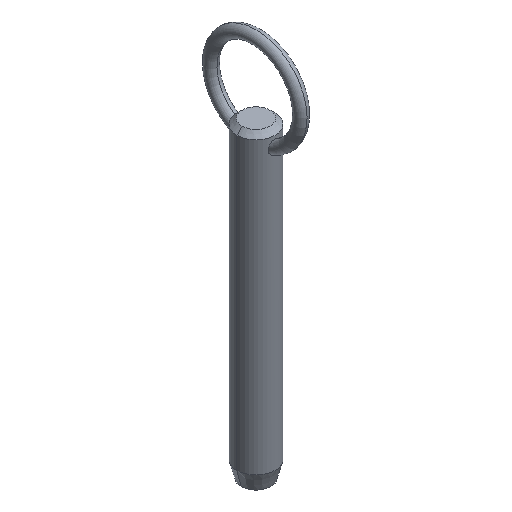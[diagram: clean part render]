
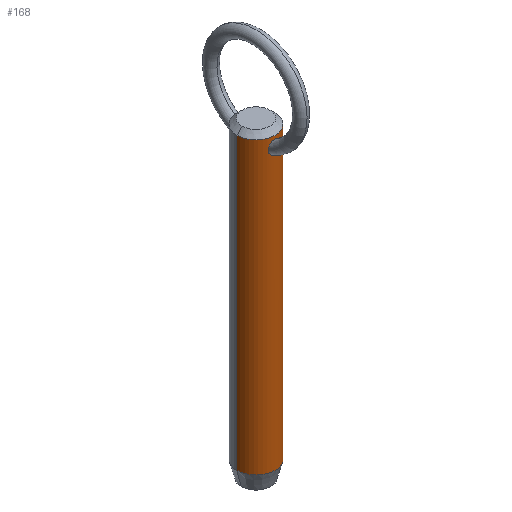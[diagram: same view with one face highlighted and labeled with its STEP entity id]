
A CAD part, isometric view. The second image highlights one B-rep face of the part: STEP entity #168.
In plain terms, the highlighted cylindrical face has radius 4.76 mm (diameter 9.52 mm), a partial arc.
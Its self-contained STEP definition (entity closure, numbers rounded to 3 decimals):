
#1 = CARTESIAN_POINT ( 'NONE',  ( 1.344, -4.567, 60.139 ) ) ;
#7 = EDGE_CURVE ( 'NONE', #199, #258, #10, .T. ) ;
#10 = LINE ( 'NONE', #16, #47 ) ;
#15 = AXIS2_PLACEMENT_3D ( 'NONE', #357, #36, #126 ) ;
#16 = CARTESIAN_POINT ( 'NONE',  ( 4.76, 0., 58.4 ) ) ;
#21 = FACE_OUTER_BOUND ( 'NONE', #275, .T. ) ;
#30 = CARTESIAN_POINT ( 'NONE',  ( 0., -4.76, 62.648 ) ) ;
#36 = DIRECTION ( 'NONE',  ( 0., 0., 1. ) ) ;
#37 = CARTESIAN_POINT ( 'NONE',  ( 0.506, -4.734, 62.537 ) ) ;
#40 = CARTESIAN_POINT ( 'NONE',  ( -1.039, -4.646, 59.726 ) ) ;
#43 = CARTESIAN_POINT ( 'NONE',  ( -0.103, -4.76, 62.648 ) ) ;
#46 = CARTESIAN_POINT ( 'NONE',  ( 1.24, -4.596, 59.96 ) ) ;
#47 = VECTOR ( 'NONE', #422, 1000. ) ;
#48 = CARTESIAN_POINT ( 'NONE',  ( 0.411, -4.743, 59.377 ) ) ;
#52 = ORIENTED_EDGE ( 'NONE', *, *, #7, .F. ) ;
#63 = B_SPLINE_CURVE_WITH_KNOTS ( 'NONE', 3,
 ( #239, #520, #242, #277, #278, #205, #40, #410, #132, #166, #165, #322, #330, #169, #86, #133, #368, #207, #367, #525, #43, #445 ),
 .UNSPECIFIED., .F., .F.,
 ( 4, 2, 2, 2, 2, 2, 2, 2, 2, 2, 4 ),
 ( 0.009, 0.01, 0.01, 0.011, 0.011, 0.012, 0.012, 0.013, 0.014, 0.014, 0.014 ),
 .UNSPECIFIED. ) ;
#80 = CARTESIAN_POINT ( 'NONE',  ( 0., 0., 63.45 ) ) ;
#83 = CARTESIAN_POINT ( 'NONE',  ( 0.687, -4.711, 62.435 ) ) ;
#86 = CARTESIAN_POINT ( 'NONE',  ( -1.19, -4.611, 61.924 ) ) ;
#88 = CARTESIAN_POINT ( 'NONE',  ( 1.404, -4.548, 61.453 ) ) ;
#90 = CARTESIAN_POINT ( 'NONE',  ( 1.293, -4.582, 61.742 ) ) ;
#91 = CARTESIAN_POINT ( 'NONE',  ( 1.45, -4.534, 60.428 ) ) ;
#108 = CARTESIAN_POINT ( 'NONE',  ( 0., 0., 58.4 ) ) ;
#116 = CARTESIAN_POINT ( 'NONE',  ( 0., -4.76, 59.326 ) ) ;
#117 = DIRECTION ( 'NONE',  ( 0., 0., -1. ) ) ;
#121 = CARTESIAN_POINT ( 'NONE',  ( 0.104, -4.76, 62.648 ) ) ;
#122 = FACE_BOUND ( 'NONE', #194, .T. ) ;
#126 = DIRECTION ( 'NONE',  ( -1., 0., 0. ) ) ;
#127 = CARTESIAN_POINT ( 'NONE',  ( 0.925, -4.67, 62.239 ) ) ;
#128 = CARTESIAN_POINT ( 'NONE',  ( 0.209, -4.756, 62.634 ) ) ;
#132 = CARTESIAN_POINT ( 'NONE',  ( -1.353, -4.564, 60.135 ) ) ;
#133 = CARTESIAN_POINT ( 'NONE',  ( -0.932, -4.67, 62.245 ) ) ;
#134 = CARTESIAN_POINT ( 'NONE',  ( 1.385, -4.554, 60.232 ) ) ;
#141 = ORIENTED_EDGE ( 'NONE', *, *, #307, .T. ) ;
#156 = DIRECTION ( 'NONE',  ( 0., 0., -1. ) ) ;
#157 = EDGE_CURVE ( 'NONE', #421, #455, #416, .T. ) ;
#165 = CARTESIAN_POINT ( 'NONE',  ( -1.508, -4.515, 60.737 ) ) ;
#166 = CARTESIAN_POINT ( 'NONE',  ( -1.483, -4.524, 60.526 ) ) ;
#168 = ADVANCED_FACE ( 'NONE', ( #21, #122 ), #323, .T. ) ;
#169 = CARTESIAN_POINT ( 'NONE',  ( -1.292, -4.582, 61.745 ) ) ;
#194 = EDGE_LOOP ( 'NONE', ( #313, #229 ) ) ;
#196 = CARTESIAN_POINT ( 'NONE',  ( -4.76, 0., 63.45 ) ) ;
#199 = VERTEX_POINT ( 'NONE', #391 ) ;
#202 = CARTESIAN_POINT ( 'NONE',  ( 0.797, -4.697, 59.529 ) ) ;
#203 = VERTEX_POINT ( 'NONE', #30 ) ;
#205 = CARTESIAN_POINT ( 'NONE',  ( -0.961, -4.663, 59.657 ) ) ;
#207 = CARTESIAN_POINT ( 'NONE',  ( -0.504, -4.734, 62.538 ) ) ;
#208 = AXIS2_PLACEMENT_3D ( 'NONE', #80, #237, #400 ) ;
#216 = CIRCLE ( 'NONE', #208, 4.76 ) ;
#229 = ORIENTED_EDGE ( 'NONE', *, *, #442, .T. ) ;
#230 = ORIENTED_EDGE ( 'NONE', *, *, #402, .T. ) ;
#237 = DIRECTION ( 'NONE',  ( 0., 0., -1. ) ) ;
#239 = CARTESIAN_POINT ( 'NONE',  ( 0., -4.76, 59.326 ) ) ;
#241 = CARTESIAN_POINT ( 'NONE',  ( 0.105, -4.76, 59.326 ) ) ;
#242 = CARTESIAN_POINT ( 'NONE',  ( -0.416, -4.746, 59.367 ) ) ;
#245 = CARTESIAN_POINT ( 'NONE',  ( 1.478, -4.525, 61.152 ) ) ;
#258 = VERTEX_POINT ( 'NONE', #393 ) ;
#265 = VERTEX_POINT ( 'NONE', #116 ) ;
#275 = EDGE_LOOP ( 'NONE', ( #52, #141, #417, #230 ) ) ;
#276 = CARTESIAN_POINT ( 'NONE',  ( 0., -4.76, 62.648 ) ) ;
#277 = CARTESIAN_POINT ( 'NONE',  ( -0.703, -4.709, 59.489 ) ) ;
#278 = CARTESIAN_POINT ( 'NONE',  ( -0.793, -4.694, 59.539 ) ) ;
#281 = CARTESIAN_POINT ( 'NONE',  ( 1.492, -4.52, 61.048 ) ) ;
#286 = CARTESIAN_POINT ( 'NONE',  ( 0.97, -4.662, 59.65 ) ) ;
#307 = EDGE_CURVE ( 'NONE', #199, #421, #216, .T. ) ;
#313 = ORIENTED_EDGE ( 'NONE', *, *, #429, .T. ) ;
#320 = CARTESIAN_POINT ( 'NONE',  ( 0.409, -4.743, 62.578 ) ) ;
#322 = CARTESIAN_POINT ( 'NONE',  ( -1.487, -4.522, 61.153 ) ) ;
#323 = CYLINDRICAL_SURFACE ( 'NONE', #471, 4.76 ) ;
#328 = CARTESIAN_POINT ( 'NONE',  ( 0., -4.76, 59.326 ) ) ;
#330 = CARTESIAN_POINT ( 'NONE',  ( -1.441, -4.537, 61.357 ) ) ;
#357 = CARTESIAN_POINT ( 'NONE',  ( 0., 0., -8.7 ) ) ;
#362 = CARTESIAN_POINT ( 'NONE',  ( 0.77, -4.698, 62.375 ) ) ;
#367 = CARTESIAN_POINT ( 'NONE',  ( -0.409, -4.743, 62.578 ) ) ;
#368 = CARTESIAN_POINT ( 'NONE',  ( -0.777, -4.7, 62.385 ) ) ;
#372 = CARTESIAN_POINT ( 'NONE',  ( 0.512, -4.733, 59.408 ) ) ;
#373 = CARTESIAN_POINT ( 'NONE',  ( 1.503, -4.517, 60.84 ) ) ;
#391 = CARTESIAN_POINT ( 'NONE',  ( 4.76, 0., 63.45 ) ) ;
#393 = CARTESIAN_POINT ( 'NONE',  ( 4.76, 0., -8.7 ) ) ;
#400 = DIRECTION ( 'NONE',  ( 1., 0., 0. ) ) ;
#402 = EDGE_CURVE ( 'NONE', #455, #258, #454, .T. ) ;
#407 = CARTESIAN_POINT ( 'NONE',  ( 0.997, -4.655, 62.164 ) ) ;
#408 = CARTESIAN_POINT ( 'NONE',  ( 1.19, -4.611, 61.924 ) ) ;
#410 = CARTESIAN_POINT ( 'NONE',  ( -1.247, -4.596, 59.952 ) ) ;
#413 = CARTESIAN_POINT ( 'NONE',  ( 1.473, -4.526, 60.531 ) ) ;
#416 = LINE ( 'NONE', #466, #468 ) ;
#417 = ORIENTED_EDGE ( 'NONE', *, *, #157, .T. ) ;
#421 = VERTEX_POINT ( 'NONE', #196 ) ;
#422 = DIRECTION ( 'NONE',  ( 0., 0., -1. ) ) ;
#429 = EDGE_CURVE ( 'NONE', #203, #265, #498, .T. ) ;
#441 = CARTESIAN_POINT ( 'NONE',  ( 1.178, -4.613, 59.876 ) ) ;
#442 = EDGE_CURVE ( 'NONE', #265, #203, #63, .T. ) ;
#443 = CARTESIAN_POINT ( 'NONE',  ( -4.76, 0., -8.7 ) ) ;
#445 = CARTESIAN_POINT ( 'NONE',  ( 0., -4.76, 62.648 ) ) ;
#448 = CARTESIAN_POINT ( 'NONE',  ( 1.499, -4.518, 60.737 ) ) ;
#454 = CIRCLE ( 'NONE', #15, 4.76 ) ;
#455 = VERTEX_POINT ( 'NONE', #443 ) ;
#466 = CARTESIAN_POINT ( 'NONE',  ( -4.76, 0., 58.4 ) ) ;
#468 = VECTOR ( 'NONE', #156, 1000. ) ;
#471 = AXIS2_PLACEMENT_3D ( 'NONE', #108, #117, #508 ) ;
#485 = CARTESIAN_POINT ( 'NONE',  ( 0.208, -4.757, 59.336 ) ) ;
#487 = CARTESIAN_POINT ( 'NONE',  ( 1.434, -4.539, 61.354 ) ) ;
#498 = B_SPLINE_CURVE_WITH_KNOTS ( 'NONE', 3,
 ( #276, #121, #128, #320, #37, #83, #362, #127, #407, #408, #90, #88, #487, #245, #281, #373, #448, #413, #91, #134, #1, #46, #441, #286, #202, #372, #48, #485, #241, #328 ),
 .UNSPECIFIED., .F., .F.,
 ( 4, 2, 2, 2, 2, 2, 2, 2, 2, 2, 2, 2, 2, 2, 4 ),
 ( 0.004, 0.005, 0.005, 0.005, 0.006, 0.006, 0.007, 0.007, 0.007, 0.007, 0.008, 0.008, 0.009, 0.009, 0.009 ),
 .UNSPECIFIED. ) ;
#508 = DIRECTION ( 'NONE',  ( -1., 0., 0. ) ) ;
#520 = CARTESIAN_POINT ( 'NONE',  ( -0.21, -4.76, 59.326 ) ) ;
#525 = CARTESIAN_POINT ( 'NONE',  ( -0.208, -4.757, 62.634 ) ) ;
